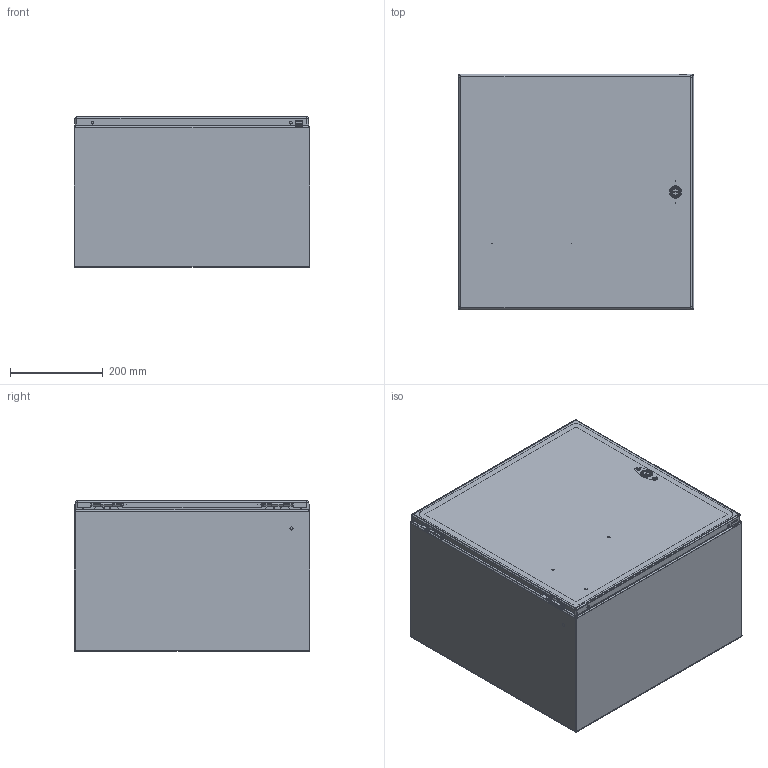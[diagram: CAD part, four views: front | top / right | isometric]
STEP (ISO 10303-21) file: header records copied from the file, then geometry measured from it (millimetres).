
FILE_DESCRIPTION (( 'STEP AP203' ), '1' );
FILE_NAME ('csd202012lg.STEP', '2012-04-20T13:09:44', ( 'Hoffman User' ), ( 'Hoffman Enclosures' ), 'SwSTEP 2.0', 'SolidWorks 2010', '' );
FILE_SCHEMA (( 'CONFIG_CONTROL_DESIGN' ));
Length unit declared in the file: inch
Products named in the file (27): csd202012lg; 89046047; 87755928_default; 23271001_After Weld; 87937925_assy; 87937965_weldment; 87937911; 99401225; 87931362_87931362; 64101001; 64201001; 87541994_Installed Height; 87541995; 64202001; 64210001; 64203001; 87927840_87927840; 87932903; 64138001; 89057562; 87543027; 89076399; 89076193; 89056623; 87929507; 87929767; 87929769_Installed on Pin
Assembly tree (38 placements, depth 4):
  csd202012lg
    89046047
      23271001_After Weld  x4
      99401225
      87755928_default
    87543027  x2
    87929507  x2
      87929769_Installed on Pin
      87929767
    89076399  x2
      89076193
      89056623
    87937925_assy
      87937965_weldment
        87931362_87931362  x4
        87937911
        99401225
      64101001
        64203001
        64202001
        87927840_87927840
        64210001
        87541995
        87541994_Installed Height
        64201001
      87932903  x2
      64138001  x2
      89057562
Bounding box: 508 x 508.73 x 325.5 mm (x, y, z)
Volume: 1862466.4 mm3; surface area: 2548371.2 mm2
Topology: 35 solids, 35 shells, 1689 faces, 4125 edges, 2490 vertices
Faces by surface type: plane 652, cylinder 547, bspline 288, torus 106, cone 88, sphere 8
Entity records: 46223 total; most frequent: CARTESIAN_POINT 16302, ORIENTED_EDGE 5874, DIRECTION 5117, EDGE_CURVE 2937, AXIS2_PLACEMENT_3D 1833, VERTEX_POINT 1802, LINE 1451, VECTOR 1451
